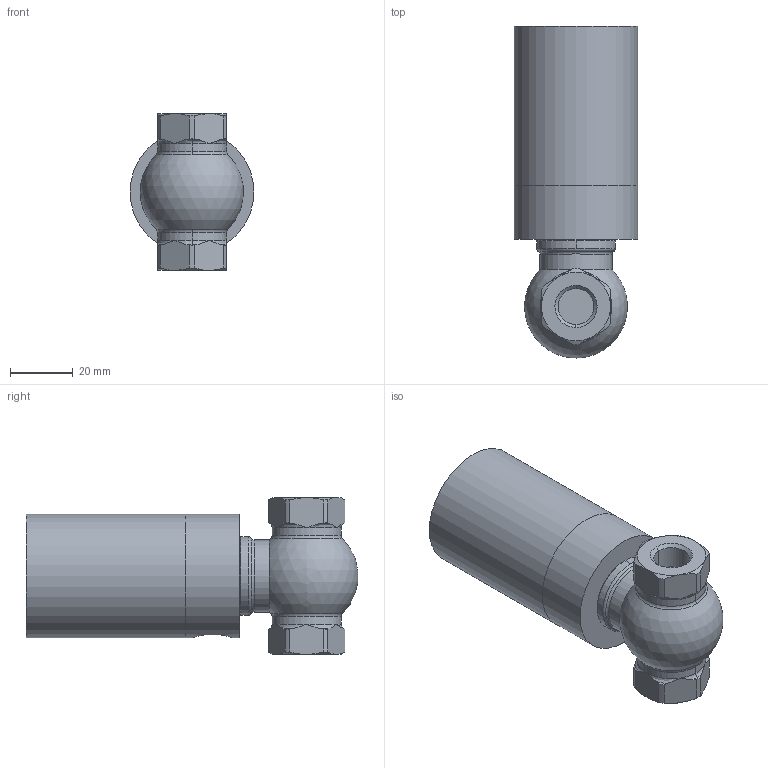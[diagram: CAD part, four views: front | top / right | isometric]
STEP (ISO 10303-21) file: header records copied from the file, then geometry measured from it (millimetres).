
FILE_DESCRIPTION(/* description */ (''),/* implementation_level */ '2;1');
FILE_NAME(/* name */ 'AFI14 v1.step',/* time_stamp */ '2025-07-16T12:12:03+02:00',/* author */ (''),/* organization */ (''),/* preprocessor_version */ 'ST-DEVELOPER v20.1',/* originating_system */ 'Autodesk Translation Framework v14.10.0.0',/* authorisation */ '');
FILE_SCHEMA (('AUTOMOTIVE_DESIGN { 1 0 10303 214 3 1 1 }'));
Length unit declared in the file: millimetre
Products named in the file (4): AFI14; CVACORGLOBG02; TA; tubo
Assembly tree (3 placements, depth 2):
  AFI14
    CVACORGLOBG02
    TA
    tubo
Bounding box: 39.5 x 105.89 x 50 mm (x, y, z)
Volume: 117117.4 mm3; surface area: 24287.4 mm2
Topology: 3 solids, 3 shells, 133 faces, 295 edges, 184 vertices
Faces by surface type: cylinder 44, plane 34, cone 30, torus 20, bspline 4, sphere 1
Full cylindrical faces by diameter (mm): 8.707 x2, 10.2 x3, 11.445 x1, 14.8 x3, 17.85 x1, 18 x1, 20 x1, 23 x2, 31.6 x1, 34.85 x1, 39.5 x2
Entity records: 4318 total; most frequent: CARTESIAN_POINT 1321, DIRECTION 632, ORIENTED_EDGE 586, EDGE_CURVE 293, AXIS2_PLACEMENT_3D 283, VERTEX_POINT 184, EDGE_LOOP 153, CIRCLE 147
